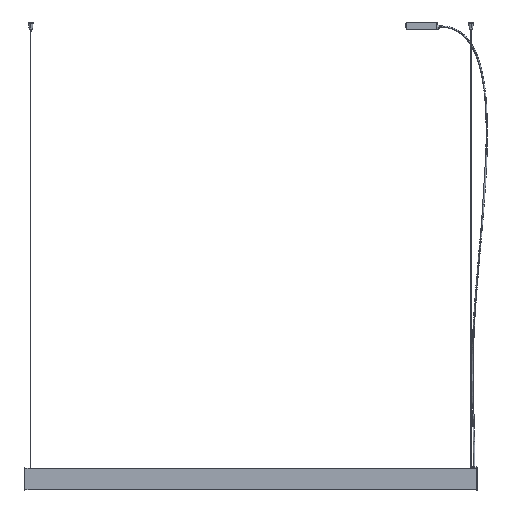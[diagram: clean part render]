
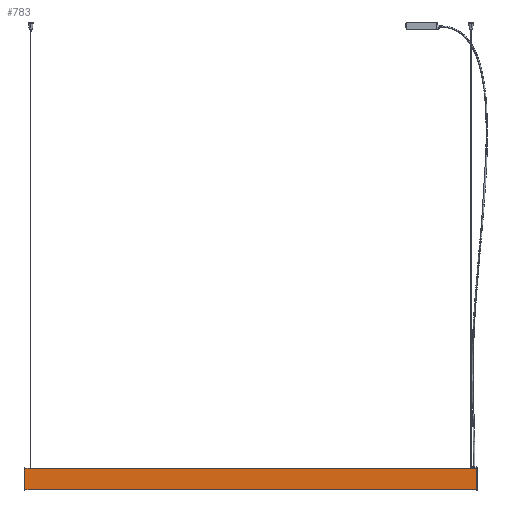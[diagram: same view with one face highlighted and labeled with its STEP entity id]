
A CAD part, left-side view. The second image highlights one B-rep face of the part: STEP entity #783.
In plain terms, the highlighted planar face has unit normal (-1, 0, 0).
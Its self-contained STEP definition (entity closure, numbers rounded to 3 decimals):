
#783=ADVANCED_FACE('',(#1741),#15025,.T.);
#1741=FACE_OUTER_BOUND('',#2699,.T.);
#2699=EDGE_LOOP('',(#5513,#5514,#5515,#5516));
#5513=ORIENTED_EDGE('',*,*,#9161,.F.);
#5514=ORIENTED_EDGE('',*,*,#9452,.F.);
#5515=ORIENTED_EDGE('',*,*,#9450,.F.);
#5516=ORIENTED_EDGE('',*,*,#9453,.T.);
#9161=EDGE_CURVE('',#13792,#13789,#11421,.T.);
#9450=EDGE_CURVE('',#13983,#13984,#11643,.T.);
#9452=EDGE_CURVE('',#13984,#13792,#11644,.T.);
#9453=EDGE_CURVE('',#13983,#13789,#11645,.T.);
#11421=B_SPLINE_CURVE_WITH_KNOTS('',1,(#23701,#23702),.UNSPECIFIED.,.F.,
 .F.,(2,2),(0.,2015.),.UNSPECIFIED.);
#11643=B_SPLINE_CURVE_WITH_KNOTS('',1,(#24374,#24375),.UNSPECIFIED.,.F.,
 .F.,(2,2),(0.,2015.),.UNSPECIFIED.);
#11644=B_SPLINE_CURVE_WITH_KNOTS('',1,(#24379,#24380),.UNSPECIFIED.,.F.,
 .F.,(2,2),(0.,96.4),.UNSPECIFIED.);
#11645=B_SPLINE_CURVE_WITH_KNOTS('',1,(#24381,#24382),.UNSPECIFIED.,.F.,
 .F.,(2,2),(-96.4,0.),.UNSPECIFIED.);
#13789=VERTEX_POINT('',#23487);
#13792=VERTEX_POINT('',#23490);
#13983=VERTEX_POINT('',#23681);
#13984=VERTEX_POINT('',#23682);
#15025=PLANE('',#16334);
#16334=AXIS2_PLACEMENT_3D('',#23480,#16906,$);
#16906=DIRECTION('',(-1.,0.,0.));
#23480=CARTESIAN_POINT('',(0.,-57.84,1209.));
#23487=CARTESIAN_POINT('',(0.,-48.2,-1007.5));
#23490=CARTESIAN_POINT('',(0.,-48.2,1007.5));
#23681=CARTESIAN_POINT('',(0.,48.2,-1007.5));
#23682=CARTESIAN_POINT('',(0.,48.2,1007.5));
#23701=CARTESIAN_POINT('',(0.,-48.2,1007.5));
#23702=CARTESIAN_POINT('',(0.,-48.2,-1007.5));
#24374=CARTESIAN_POINT('',(0.,48.2,-1007.5));
#24375=CARTESIAN_POINT('',(0.,48.2,1007.5));
#24379=CARTESIAN_POINT('',(0.,48.2,1007.5));
#24380=CARTESIAN_POINT('',(0.,-48.2,1007.5));
#24381=CARTESIAN_POINT('',(0.,48.2,-1007.5));
#24382=CARTESIAN_POINT('',(0.,-48.2,-1007.5));
